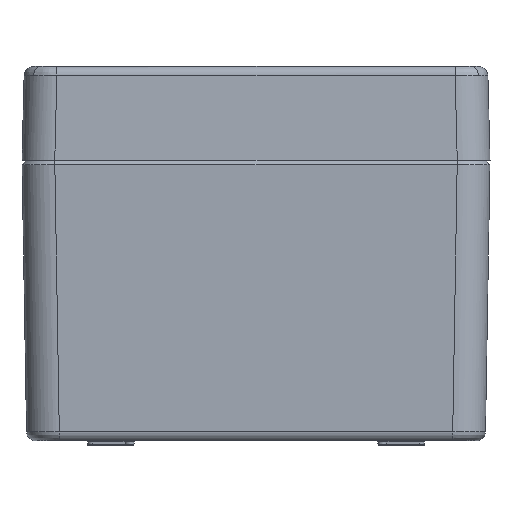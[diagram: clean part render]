
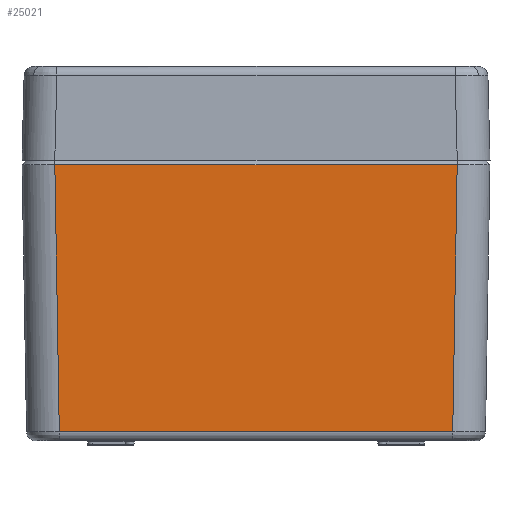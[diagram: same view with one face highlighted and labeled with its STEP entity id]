
A CAD part, left-side view. The second image highlights one B-rep face of the part: STEP entity #25021.
In plain terms, the highlighted planar face has unit normal (-1, 0, -0.017).
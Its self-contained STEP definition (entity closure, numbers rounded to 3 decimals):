
#358 = CARTESIAN_POINT ( 'NONE',  ( -99.984, 42.985, -0.984 ) ) ;
#1276 = CARTESIAN_POINT ( 'NONE',  ( -99.033, -42.001, -58.033 ) ) ;
#2022 = LINE ( 'NONE', #6968, #10486 ) ;
#2518 = EDGE_CURVE ( 'NONE', #9225, #4898, #30404, .T. ) ;
#2842 = ORIENTED_EDGE ( 'NONE', *, *, #2518, .T. ) ;
#4182 = DIRECTION ( 'NONE',  ( -1., 0., -0.017 ) ) ;
#4898 = VERTEX_POINT ( 'NONE', #24712 ) ;
#6091 = ORIENTED_EDGE ( 'NONE', *, *, #23308, .T. ) ;
#6594 = DIRECTION ( 'NONE',  ( -0.017, 0., 1. ) ) ;
#6968 = CARTESIAN_POINT ( 'NONE',  ( -99.984, 50., -0.984 ) ) ;
#8498 = FACE_OUTER_BOUND ( 'NONE', #17632, .T. ) ;
#8560 = EDGE_CURVE ( 'NONE', #31172, #26965, #15008, .T. ) ;
#8818 = CARTESIAN_POINT ( 'NONE',  ( -100., 50., 0. ) ) ;
#9225 = VERTEX_POINT ( 'NONE', #10213 ) ;
#10064 = AXIS2_PLACEMENT_3D ( 'NONE', #8818, #4182, #6594 ) ;
#10213 = CARTESIAN_POINT ( 'NONE',  ( -99.033, -42.034, -58.033 ) ) ;
#10486 = VECTOR ( 'NONE', #29219, 1000. ) ;
#13588 = CARTESIAN_POINT ( 'NONE',  ( -99.033, 42.034, -58.033 ) ) ;
#15008 = LINE ( 'NONE', #21430, #27333 ) ;
#16477 = EDGE_CURVE ( 'NONE', #31172, #9225, #20842, .T. ) ;
#17632 = EDGE_LOOP ( 'NONE', ( #2842, #6091, #18266, #22667 ) ) ;
#18266 = ORIENTED_EDGE ( 'NONE', *, *, #8560, .F. ) ;
#18318 = CARTESIAN_POINT ( 'NONE',  ( -99., -42.001, -60. ) ) ;
#20842 = LINE ( 'NONE', #1276, #24229 ) ;
#20855 = DIRECTION ( 'NONE',  ( -0.017, -0.017, 1. ) ) ;
#21430 = CARTESIAN_POINT ( 'NONE',  ( -99., 42.001, -60. ) ) ;
#22667 = ORIENTED_EDGE ( 'NONE', *, *, #16477, .T. ) ;
#22759 = DIRECTION ( 'NONE',  ( 0., -1., 0. ) ) ;
#23308 = EDGE_CURVE ( 'NONE', #4898, #26965, #2022, .T. ) ;
#24152 = VECTOR ( 'NONE', #20855, 1000. ) ;
#24229 = VECTOR ( 'NONE', #22759, 1000. ) ;
#24712 = CARTESIAN_POINT ( 'NONE',  ( -99.984, -42.985, -0.983 ) ) ;
#25021 = ADVANCED_FACE ( 'NONE', ( #8498 ), #27886, .T. ) ;
#26965 = VERTEX_POINT ( 'NONE', #358 ) ;
#27333 = VECTOR ( 'NONE', #30972, 1000. ) ;
#27886 = PLANE ( 'NONE',  #10064 ) ;
#29219 = DIRECTION ( 'NONE',  ( 0., 1., 0. ) ) ;
#30404 = LINE ( 'NONE', #18318, #24152 ) ;
#30972 = DIRECTION ( 'NONE',  ( -0.017, 0.017, 1. ) ) ;
#31172 = VERTEX_POINT ( 'NONE', #13588 ) ;
